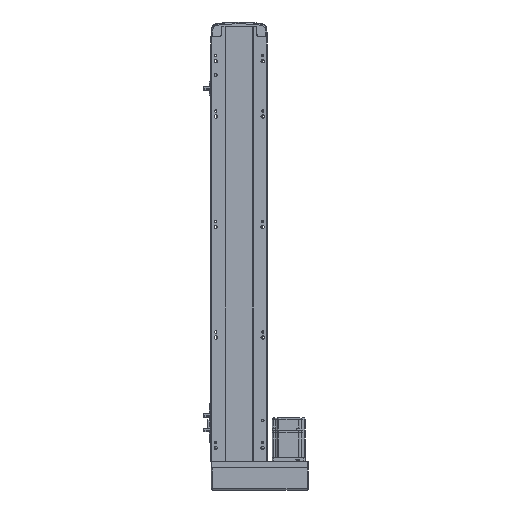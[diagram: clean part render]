
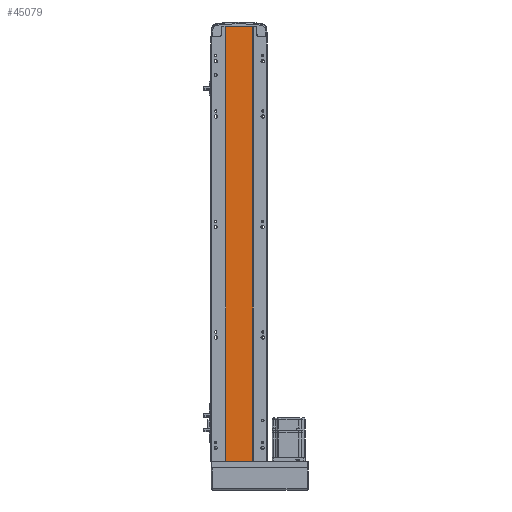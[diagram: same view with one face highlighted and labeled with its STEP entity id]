
A CAD part, front view. The second image highlights one B-rep face of the part: STEP entity #45079.
In plain terms, the highlighted planar face has unit normal (0, -1, 0).
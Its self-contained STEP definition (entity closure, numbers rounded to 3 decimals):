
#4678 = DIRECTION ( 'NONE',  ( 1., 0., 0. ) ) ;
#6081 = EDGE_CURVE ( 'NONE', #32271, #55387, #6896, .T. ) ;
#6521 = PLANE ( 'NONE',  #37183 ) ;
#6896 = LINE ( 'NONE', #28454, #42398 ) ;
#7356 = CARTESIAN_POINT ( 'NONE',  ( -24.5, 2., 0. ) ) ;
#11150 = VECTOR ( 'NONE', #4678, 1000. ) ;
#15840 = DIRECTION ( 'NONE',  ( 0., 1., 0. ) ) ;
#18376 = EDGE_CURVE ( 'NONE', #43687, #32271, #39853, .T. ) ;
#19627 = VECTOR ( 'NONE', #30355, 1000. ) ;
#21046 = DIRECTION ( 'NONE',  ( 0., 0., 1. ) ) ;
#25840 = VERTEX_POINT ( 'NONE', #7356 ) ;
#27551 = CARTESIAN_POINT ( 'NONE',  ( 24.5, 2., 787. ) ) ;
#28454 = CARTESIAN_POINT ( 'NONE',  ( 24.5, 2., 787. ) ) ;
#29981 = CARTESIAN_POINT ( 'NONE',  ( 0., 2., 787. ) ) ;
#30355 = DIRECTION ( 'NONE',  ( 1., 0., 0. ) ) ;
#32271 = VERTEX_POINT ( 'NONE', #27551 ) ;
#33089 = DIRECTION ( 'NONE',  ( 0., 0., -1. ) ) ;
#35290 = VECTOR ( 'NONE', #46719, 1000. ) ;
#35789 = EDGE_LOOP ( 'NONE', ( #40354, #53009, #44264, #51942 ) ) ;
#37183 = AXIS2_PLACEMENT_3D ( 'NONE', #29981, #15840, #21046 ) ;
#39448 = CARTESIAN_POINT ( 'NONE',  ( -24.5, 2., 787. ) ) ;
#39853 = LINE ( 'NONE', #39448, #19627 ) ;
#40354 = ORIENTED_EDGE ( 'NONE', *, *, #43741, .T. ) ;
#42398 = VECTOR ( 'NONE', #33089, 1000. ) ;
#43687 = VERTEX_POINT ( 'NONE', #58069 ) ;
#43741 = EDGE_CURVE ( 'NONE', #25840, #55387, #47327, .T. ) ;
#44264 = ORIENTED_EDGE ( 'NONE', *, *, #18376, .F. ) ;
#45079 = ADVANCED_FACE ( 'NONE', ( #46449 ), #6521, .F. ) ;
#45704 = CARTESIAN_POINT ( 'NONE',  ( 0., 2., 0. ) ) ;
#46203 = CARTESIAN_POINT ( 'NONE',  ( 24.5, 2., 0. ) ) ;
#46449 = FACE_OUTER_BOUND ( 'NONE', #35789, .T. ) ;
#46512 = CARTESIAN_POINT ( 'NONE',  ( -24.5, 2., 787. ) ) ;
#46719 = DIRECTION ( 'NONE',  ( 0., 0., -1. ) ) ;
#47327 = LINE ( 'NONE', #45704, #11150 ) ;
#47943 = EDGE_CURVE ( 'NONE', #43687, #25840, #55590, .T. ) ;
#51942 = ORIENTED_EDGE ( 'NONE', *, *, #47943, .T. ) ;
#53009 = ORIENTED_EDGE ( 'NONE', *, *, #6081, .F. ) ;
#55387 = VERTEX_POINT ( 'NONE', #46203 ) ;
#55590 = LINE ( 'NONE', #46512, #35290 ) ;
#58069 = CARTESIAN_POINT ( 'NONE',  ( -24.5, 2., 787. ) ) ;
